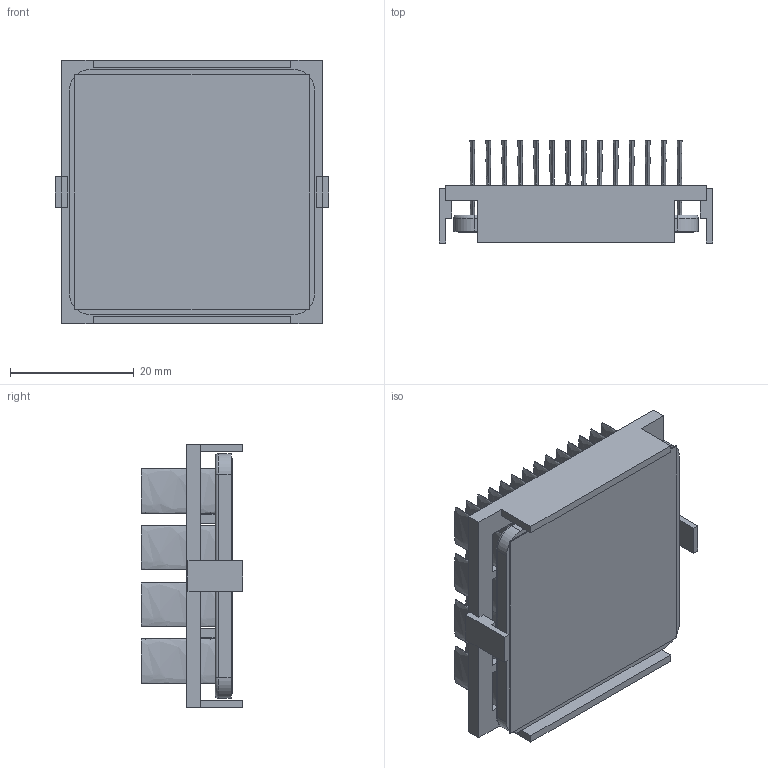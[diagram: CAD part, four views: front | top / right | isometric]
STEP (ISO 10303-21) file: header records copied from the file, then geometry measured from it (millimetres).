
FILE_DESCRIPTION (( 'STEP AP214' ), '1' );
FILE_NAME ('INM40001-15W-2.6BU.STEP', '2023-02-21T17:37:51', ( '' ), ( '' ), 'SwSTEP 2.0', 'SolidWorks 2020', '' );
FILE_SCHEMA (( 'AUTOMOTIVE_DESIGN' ));
Length unit declared in the file: inch
Products named in the file (1): INM40001-15W-2.6BU
Bounding box: 44.2 x 16.5 x 42.7 mm (x, y, z)
Volume: 9322.8 mm3; surface area: 19418.5 mm2
Topology: 3 solids, 3 shells, 250 faces, 556 edges, 368 vertices
Faces by surface type: plane 126, bspline 112, cylinder 8, torus 4
Entity records: 10428 total; most frequent: CARTESIAN_POINT 2631, ORIENTED_EDGE 1112, DIRECTION 630, EDGE_CURVE 556, VERTEX_POINT 368, VECTOR 312, LINE 312, EDGE_LOOP 308
